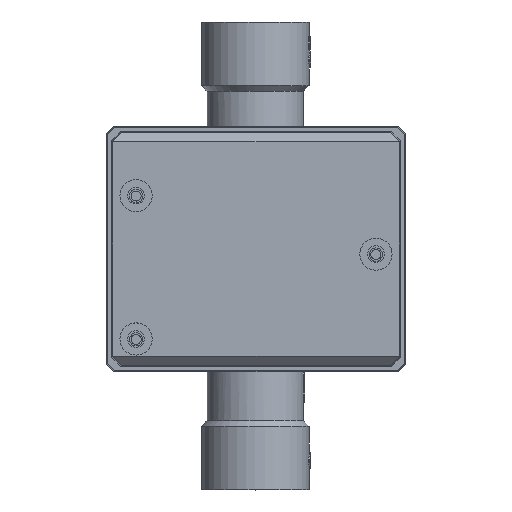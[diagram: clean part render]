
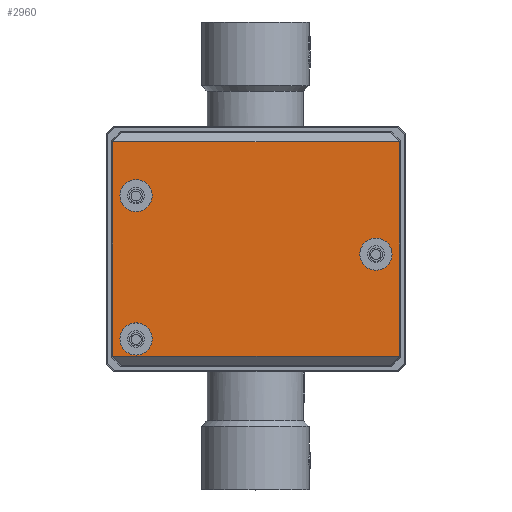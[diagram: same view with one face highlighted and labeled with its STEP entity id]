
A CAD part, top view. The second image highlights one B-rep face of the part: STEP entity #2960.
In plain terms, the highlighted planar face has unit normal (0, 0, 1).
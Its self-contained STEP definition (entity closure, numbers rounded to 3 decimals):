
#2960=ADVANCED_FACE('',(#4198,#4199,#4200,#4201),#3829,.T.);
#3829=PLANE('',#20735);
#4198=FACE_BOUND('',#4917,.T.);
#4199=FACE_BOUND('',#4918,.T.);
#4200=FACE_BOUND('',#4919,.T.);
#4201=FACE_BOUND('',#4920,.T.);
#4917=EDGE_LOOP('',(#8992));
#4918=EDGE_LOOP('',(#8993));
#4919=EDGE_LOOP('',(#8994));
#4920=EDGE_LOOP('',(#8995,#8996,#8997,#8998,#8999,#9000,#9001,#9002));
#6163=CIRCLE('',#20732,5.5);
#6164=CIRCLE('',#20733,5.5);
#6165=CIRCLE('',#20734,5.5);
#8992=ORIENTED_EDGE('',*,*,#15500,.T.);
#8993=ORIENTED_EDGE('',*,*,#15501,.T.);
#8994=ORIENTED_EDGE('',*,*,#15502,.T.);
#8995=ORIENTED_EDGE('',*,*,#15494,.F.);
#8996=ORIENTED_EDGE('',*,*,#15503,.T.);
#8997=ORIENTED_EDGE('',*,*,#15504,.T.);
#8998=ORIENTED_EDGE('',*,*,#15505,.T.);
#8999=ORIENTED_EDGE('',*,*,#15506,.F.);
#9000=ORIENTED_EDGE('',*,*,#15507,.T.);
#9001=ORIENTED_EDGE('',*,*,#15508,.T.);
#9002=ORIENTED_EDGE('',*,*,#15509,.T.);
#13136=VERTEX_POINT('',#30803);
#13137=VERTEX_POINT('',#30805);
#13142=VERTEX_POINT('',#30818);
#13143=VERTEX_POINT('',#30820);
#13144=VERTEX_POINT('',#30822);
#13145=VERTEX_POINT('',#30824);
#13146=VERTEX_POINT('',#30826);
#13147=VERTEX_POINT('',#30828);
#13148=VERTEX_POINT('',#30830);
#13149=VERTEX_POINT('',#30832);
#13150=VERTEX_POINT('',#30834);
#15494=EDGE_CURVE('',#13136,#13137,#17498,.T.);
#15500=EDGE_CURVE('',#13142,#13142,#6163,.T.);
#15501=EDGE_CURVE('',#13143,#13143,#6164,.T.);
#15502=EDGE_CURVE('',#13144,#13144,#6165,.T.);
#15503=EDGE_CURVE('',#13136,#13145,#17504,.T.);
#15504=EDGE_CURVE('',#13145,#13146,#17505,.T.);
#15505=EDGE_CURVE('',#13146,#13147,#17506,.T.);
#15506=EDGE_CURVE('',#13148,#13147,#17507,.T.);
#15507=EDGE_CURVE('',#13148,#13149,#17508,.T.);
#15508=EDGE_CURVE('',#13149,#13150,#17509,.T.);
#15509=EDGE_CURVE('',#13150,#13137,#17510,.T.);
#17498=LINE('',#30804,#18804);
#17504=LINE('',#30823,#18810);
#17505=LINE('',#30825,#18811);
#17506=LINE('',#30827,#18812);
#17507=LINE('',#30829,#18813);
#17508=LINE('',#30831,#18814);
#17509=LINE('',#30833,#18815);
#17510=LINE('',#30835,#18816);
#18804=VECTOR('',#23863,1.);
#18810=VECTOR('',#23879,1.);
#18811=VECTOR('',#23880,1.);
#18812=VECTOR('',#23881,1.);
#18813=VECTOR('',#23882,1.);
#18814=VECTOR('',#23883,1.);
#18815=VECTOR('',#23884,1.);
#18816=VECTOR('',#23885,1.);
#20732=AXIS2_PLACEMENT_3D('',#30817,#23873,#23874);
#20733=AXIS2_PLACEMENT_3D('',#30819,#23875,#23876);
#20734=AXIS2_PLACEMENT_3D('',#30821,#23877,#23878);
#20735=AXIS2_PLACEMENT_3D('',#30836,#23886,#23887);
#23863=DIRECTION('',(0.,1.,0.));
#23873=DIRECTION('',(0.,0.,-1.));
#23874=DIRECTION('',(1.,0.,0.));
#23875=DIRECTION('',(0.,0.,-1.));
#23876=DIRECTION('',(1.,0.,0.));
#23877=DIRECTION('',(0.,0.,-1.));
#23878=DIRECTION('',(1.,0.,0.));
#23879=DIRECTION('',(0.707,-0.707,0.));
#23880=DIRECTION('',(1.,0.,0.));
#23881=DIRECTION('',(0.707,0.707,0.));
#23882=DIRECTION('',(0.,-1.,0.));
#23883=DIRECTION('',(-0.707,0.707,0.));
#23884=DIRECTION('',(-1.,0.,0.));
#23885=DIRECTION('',(-0.707,-0.707,0.));
#23886=DIRECTION('',(0.,0.,1.));
#23887=DIRECTION('',(-1.,0.,0.));
#30803=CARTESIAN_POINT('',(-48.896,-34.894,210.));
#30804=CARTESIAN_POINT('',(-48.896,41.85,210.));
#30805=CARTESIAN_POINT('',(-48.896,38.394,210.));
#30817=CARTESIAN_POINT('',(41.,0.,210.));
#30818=CARTESIAN_POINT('',(46.5,0.,210.));
#30819=CARTESIAN_POINT('',(-41.,20.,210.));
#30820=CARTESIAN_POINT('',(-35.5,20.,210.));
#30821=CARTESIAN_POINT('',(-41.,-29.,210.));
#30822=CARTESIAN_POINT('',(-35.5,-29.,210.));
#30823=CARTESIAN_POINT('',(-42.77,-41.02,210.));
#30824=CARTESIAN_POINT('',(-48.894,-34.896,210.));
#30825=CARTESIAN_POINT('',(0.,-34.896,210.));
#30826=CARTESIAN_POINT('',(48.894,-34.896,210.));
#30827=CARTESIAN_POINT('',(42.77,-41.02,210.));
#30828=CARTESIAN_POINT('',(48.896,-34.894,210.));
#30829=CARTESIAN_POINT('',(48.896,41.85,210.));
#30830=CARTESIAN_POINT('',(48.896,38.394,210.));
#30831=CARTESIAN_POINT('',(42.77,44.52,210.));
#30832=CARTESIAN_POINT('',(48.894,38.396,210.));
#30833=CARTESIAN_POINT('',(0.,38.396,210.));
#30834=CARTESIAN_POINT('',(-48.894,38.396,210.));
#30835=CARTESIAN_POINT('',(-42.77,44.52,210.));
#30836=CARTESIAN_POINT('',(0.,1.75,210.));
